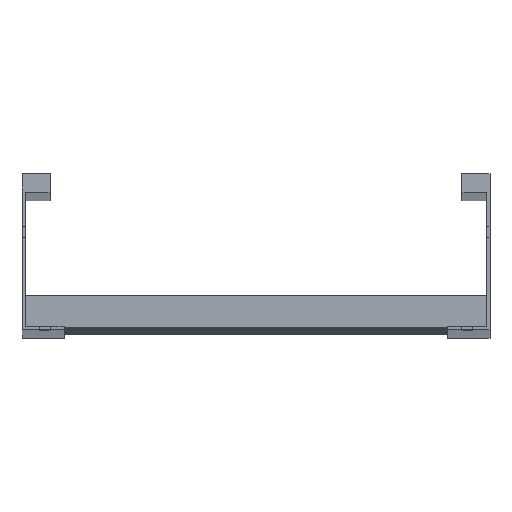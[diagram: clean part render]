
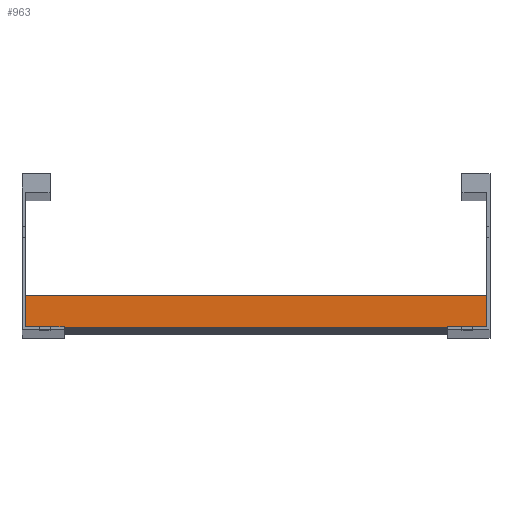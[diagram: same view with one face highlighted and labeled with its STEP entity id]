
A CAD part, top view. The second image highlights one B-rep face of the part: STEP entity #963.
In plain terms, the highlighted planar face has unit normal (0, 0, 1).
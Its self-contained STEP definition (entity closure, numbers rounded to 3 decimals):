
#83 = DIRECTION ( 'NONE',  ( 0., 1., 0. ) ) ;
#205 = AXIS2_PLACEMENT_3D ( 'NONE', #1025, #603, #83 ) ;
#257 = CARTESIAN_POINT ( 'NONE',  ( -148., 20., 20.25 ) ) ;
#261 = VERTEX_POINT ( 'NONE', #633 ) ;
#262 = VECTOR ( 'NONE', #516, 1000. ) ;
#476 = VERTEX_POINT ( 'NONE', #257 ) ;
#510 = ORIENTED_EDGE ( 'NONE', *, *, #1200, .F. ) ;
#513 = DIRECTION ( 'NONE',  ( 0., -1., 0. ) ) ;
#516 = DIRECTION ( 'NONE',  ( -1., 0., 0. ) ) ;
#539 = LINE ( 'NONE', #1611, #262 ) ;
#603 = DIRECTION ( 'NONE',  ( 0., 0., -1. ) ) ;
#631 = CARTESIAN_POINT ( 'NONE',  ( -148., 0., 20.25 ) ) ;
#633 = CARTESIAN_POINT ( 'NONE',  ( 148., 20., 20.25 ) ) ;
#691 = VECTOR ( 'NONE', #1311, 1000. ) ;
#722 = LINE ( 'NONE', #903, #975 ) ;
#749 = VECTOR ( 'NONE', #1034, 1000. ) ;
#768 = CARTESIAN_POINT ( 'NONE',  ( -148., 20., 20.25 ) ) ;
#771 = VERTEX_POINT ( 'NONE', #631 ) ;
#778 = LINE ( 'NONE', #1444, #691 ) ;
#803 = VERTEX_POINT ( 'NONE', #1526 ) ;
#826 = EDGE_CURVE ( 'NONE', #261, #476, #539, .T. ) ;
#866 = FACE_OUTER_BOUND ( 'NONE', #1427, .T. ) ;
#883 = PLANE ( 'NONE',  #205 ) ;
#903 = CARTESIAN_POINT ( 'NONE',  ( 148., 20., 20.25 ) ) ;
#946 = ORIENTED_EDGE ( 'NONE', *, *, #826, .T. ) ;
#963 = ADVANCED_FACE ( 'NONE', ( #866 ), #883, .F. ) ;
#975 = VECTOR ( 'NONE', #513, 1000. ) ;
#1025 = CARTESIAN_POINT ( 'NONE',  ( 148., 20., 20.25 ) ) ;
#1034 = DIRECTION ( 'NONE',  ( 0., -1., 0. ) ) ;
#1104 = ORIENTED_EDGE ( 'NONE', *, *, #1165, .T. ) ;
#1165 = EDGE_CURVE ( 'NONE', #476, #771, #1556, .T. ) ;
#1200 = EDGE_CURVE ( 'NONE', #803, #771, #778, .T. ) ;
#1311 = DIRECTION ( 'NONE',  ( -1., 0., 0. ) ) ;
#1427 = EDGE_LOOP ( 'NONE', ( #1104, #510, #1483, #946 ) ) ;
#1444 = CARTESIAN_POINT ( 'NONE',  ( 148., 0., 20.25 ) ) ;
#1483 = ORIENTED_EDGE ( 'NONE', *, *, #1616, .F. ) ;
#1526 = CARTESIAN_POINT ( 'NONE',  ( 148., 0., 20.25 ) ) ;
#1556 = LINE ( 'NONE', #768, #749 ) ;
#1611 = CARTESIAN_POINT ( 'NONE',  ( 148., 20., 20.25 ) ) ;
#1616 = EDGE_CURVE ( 'NONE', #261, #803, #722, .T. ) ;
